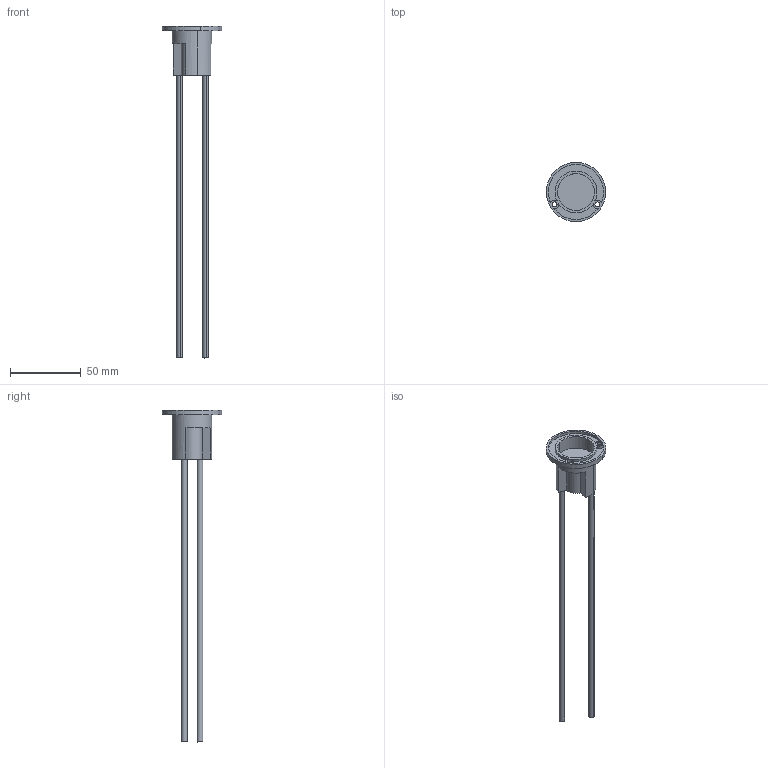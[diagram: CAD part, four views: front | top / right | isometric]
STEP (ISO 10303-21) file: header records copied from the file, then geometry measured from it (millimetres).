
FILE_DESCRIPTION (( 'STEP AP203' ), '1' );
FILE_NAME ('FR-30PRN.STEP', '2016-06-21T01:49:32', ( '' ), ( '' ), 'SwSTEP 2.0', 'SolidWorks 2014', '' );
FILE_SCHEMA (( 'CONFIG_CONTROL_DESIGN' ));
Length unit declared in the file: metre
Products named in the file (2): FR-10PRN; FR-30PRN
Assembly tree (1 placements, depth 2):
  FR-30PRN
    FR-10PRN
Bounding box: 41.95 x 41.95 x 234.7 mm (x, y, z)
Volume: 17922.1 mm3; surface area: 12429.2 mm2
Topology: 1 solids, 1 shells, 43 faces, 105 edges, 70 vertices
Faces by surface type: cylinder 29, plane 14
Entity records: 1505 total; most frequent: DIRECTION 261, CARTESIAN_POINT 222, ORIENTED_EDGE 210, AXIS2_PLACEMENT_3D 109, EDGE_CURVE 105, VERTEX_POINT 70, CIRCLE 62, EDGE_LOOP 53
